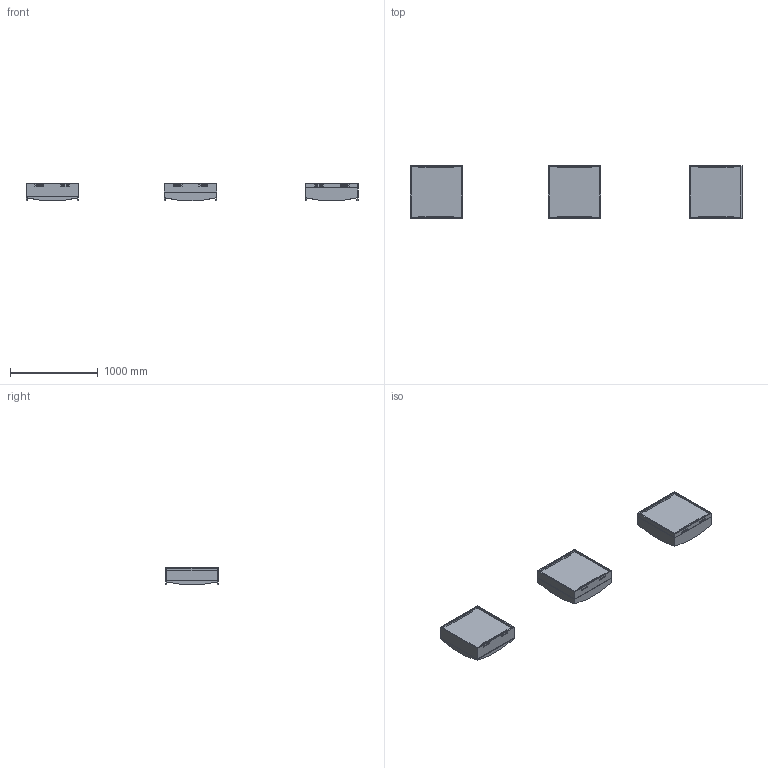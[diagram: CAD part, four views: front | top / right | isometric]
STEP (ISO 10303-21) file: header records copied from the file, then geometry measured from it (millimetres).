
FILE_DESCRIPTION(/* description */ (''),/* implementation_level */ '2;1');
FILE_NAME(/* name */ 'Coffa_Profile_5',/* time_stamp */ '2026-07-17T11:34:51-05:00',/* author */ (''),/* organization */ (''),/* preprocessor_version */ 'ST-DEVELOPER v19.2',/* originating_system */ 'Rhino 8.32',/* authorisation */ '');
FILE_SCHEMA (('CONFIG_CONTROL_DESIGN'));
Length unit declared in the file: inch
Products named in the file (1): Document
Bounding box: 3786.87 x 596.9 x 199.28 mm (x, y, z)
Volume: 28427677 mm3; surface area: 5218948.8 mm2
Topology: 21 solids, 21 shells, 282 faces, 732 edges, 492 vertices
Faces by surface type: plane 270, cylinder 12
Entity records: 8117 total; most frequent: CARTESIAN_POINT 2769, ORIENTED_EDGE 1440, EDGE_CURVE 720, B_SPLINE_CURVE_WITH_KNOTS 708, VERTEX_POINT 480, DIRECTION 336, AXIS2_PLACEMENT_3D 309, EDGE_LOOP 306
